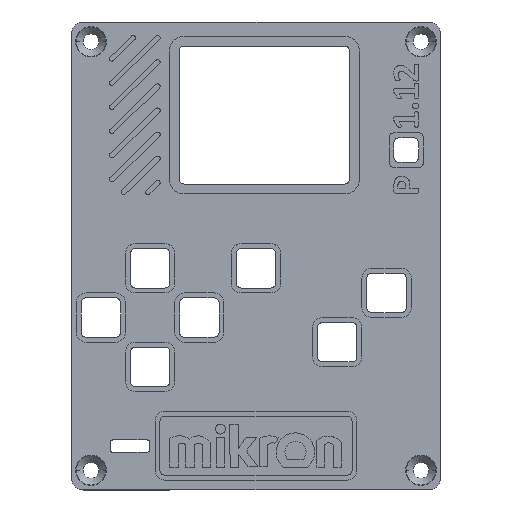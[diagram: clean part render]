
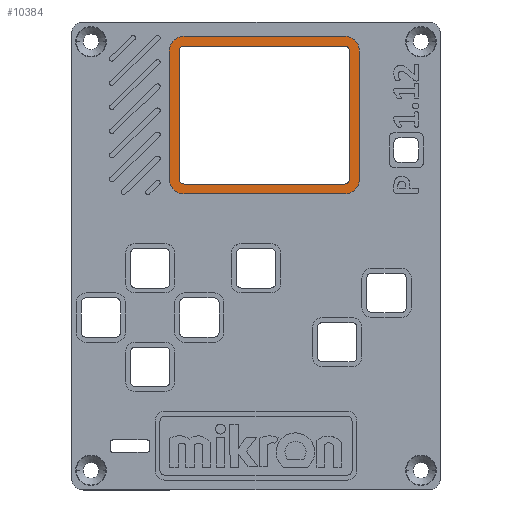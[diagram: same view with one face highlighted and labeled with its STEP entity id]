
A CAD part, top view. The second image highlights one B-rep face of the part: STEP entity #10384.
In plain terms, the highlighted planar face has unit normal (0, 0, 1).
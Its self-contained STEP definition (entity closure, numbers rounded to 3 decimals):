
#100 = LINE ( 'NONE', #8135, #12964 ) ;
#292 = VECTOR ( 'NONE', #822, 1000. ) ;
#358 = DIRECTION ( 'NONE',  ( 0., 0., -1. ) ) ;
#371 = ORIENTED_EDGE ( 'NONE', *, *, #14376, .T. ) ;
#407 = CIRCLE ( 'NONE', #3938, 1. ) ;
#627 = CARTESIAN_POINT ( 'NONE',  ( -15.6, 15.6, 1.5 ) ) ;
#755 = EDGE_CURVE ( 'NONE', #14327, #10355, #15179, .T. ) ;
#822 = DIRECTION ( 'NONE',  ( 0., -1., 0. ) ) ;
#841 = AXIS2_PLACEMENT_3D ( 'NONE', #2460, #14065, #5099 ) ;
#977 = ORIENTED_EDGE ( 'NONE', *, *, #14181, .T. ) ;
#1020 = VERTEX_POINT ( 'NONE', #5607 ) ;
#1138 = CARTESIAN_POINT ( 'NONE',  ( 18., 12.6, 1.5 ) ) ;
#1309 = CARTESIAN_POINT ( 'NONE',  ( 21., 41.6, 1.5 ) ) ;
#1426 = ORIENTED_EDGE ( 'NONE', *, *, #10832, .T. ) ;
#1540 = AXIS2_PLACEMENT_3D ( 'NONE', #12051, #358, #13670 ) ;
#1553 = VERTEX_POINT ( 'NONE', #14287 ) ;
#1686 = VERTEX_POINT ( 'NONE', #2068 ) ;
#1688 = DIRECTION ( 'NONE',  ( 1., 0., 0. ) ) ;
#1895 = AXIS2_PLACEMENT_3D ( 'NONE', #3225, #4256, #12348 ) ;
#1927 = VERTEX_POINT ( 'NONE', #5471 ) ;
#2050 = VECTOR ( 'NONE', #1688, 1000. ) ;
#2068 = CARTESIAN_POINT ( 'NONE',  ( 21., 15.6, 1.5 ) ) ;
#2105 = DIRECTION ( 'NONE',  ( 0., 1., 0. ) ) ;
#2225 = VERTEX_POINT ( 'NONE', #13224 ) ;
#2239 = CARTESIAN_POINT ( 'NONE',  ( -14.6, 41.6, 1.5 ) ) ;
#2249 = LINE ( 'NONE', #5143, #14023 ) ;
#2460 = CARTESIAN_POINT ( 'NONE',  ( -14.6, 41.6, 1.5 ) ) ;
#2495 = DIRECTION ( 'NONE',  ( 1., 0., 0. ) ) ;
#2569 = CARTESIAN_POINT ( 'NONE',  ( 19., 42.6, 1.5 ) ) ;
#2610 = VERTEX_POINT ( 'NONE', #2626 ) ;
#2626 = CARTESIAN_POINT ( 'NONE',  ( -15.6, 41.6, 1.5 ) ) ;
#3001 = CIRCLE ( 'NONE', #1895, 1. ) ;
#3225 = CARTESIAN_POINT ( 'NONE',  ( -14.6, 15.6, 1.5 ) ) ;
#3369 = CIRCLE ( 'NONE', #11818, 3. ) ;
#3373 = CIRCLE ( 'NONE', #15092, 3. ) ;
#3557 = CARTESIAN_POINT ( 'NONE',  ( 19., 15.6, 1.5 ) ) ;
#3783 = CIRCLE ( 'NONE', #8157, 3. ) ;
#3803 = DIRECTION ( 'NONE',  ( 0., 0., -1. ) ) ;
#3938 = AXIS2_PLACEMENT_3D ( 'NONE', #8835, #3803, #8921 ) ;
#4237 = VECTOR ( 'NONE', #2105, 1000. ) ;
#4256 = DIRECTION ( 'NONE',  ( 0., 0., -1. ) ) ;
#4539 = EDGE_CURVE ( 'NONE', #14844, #2610, #100, .T. ) ;
#4683 = ORIENTED_EDGE ( 'NONE', *, *, #11913, .T. ) ;
#4779 = CARTESIAN_POINT ( 'NONE',  ( -14.6, 14.6, 1.5 ) ) ;
#4893 = FACE_OUTER_BOUND ( 'NONE', #15937, .T. ) ;
#4916 = DIRECTION ( 'NONE',  ( -1., 0., 0. ) ) ;
#5046 = EDGE_CURVE ( 'NONE', #1553, #9904, #407, .T. ) ;
#5061 = DIRECTION ( 'NONE',  ( -1., 0., 0. ) ) ;
#5099 = DIRECTION ( 'NONE',  ( 1., 0., 0. ) ) ;
#5122 = LINE ( 'NONE', #2569, #2050 ) ;
#5143 = CARTESIAN_POINT ( 'NONE',  ( 19., 14.6, 1.5 ) ) ;
#5235 = CARTESIAN_POINT ( 'NONE',  ( -14.6, 15.6, 1.5 ) ) ;
#5236 = ORIENTED_EDGE ( 'NONE', *, *, #14652, .T. ) ;
#5471 = CARTESIAN_POINT ( 'NONE',  ( -14.6, 44.6, 1.5 ) ) ;
#5607 = CARTESIAN_POINT ( 'NONE',  ( 18., 44.6, 1.5 ) ) ;
#6156 = VERTEX_POINT ( 'NONE', #7414 ) ;
#6619 = EDGE_CURVE ( 'NONE', #1020, #1927, #8679, .T. ) ;
#6865 = ORIENTED_EDGE ( 'NONE', *, *, #8633, .T. ) ;
#7070 = VERTEX_POINT ( 'NONE', #1309 ) ;
#7171 = AXIS2_PLACEMENT_3D ( 'NONE', #10108, #11549, #8910 ) ;
#7372 = VECTOR ( 'NONE', #4916, 1000. ) ;
#7414 = CARTESIAN_POINT ( 'NONE',  ( -14.6, 42.6, 1.5 ) ) ;
#7472 = CARTESIAN_POINT ( 'NONE',  ( 18., 14.6, 1.5 ) ) ;
#7653 = EDGE_CURVE ( 'NONE', #12673, #14844, #3001, .T. ) ;
#7747 = DIRECTION ( 'NONE',  ( 0., -1., 0. ) ) ;
#8135 = CARTESIAN_POINT ( 'NONE',  ( -15.6, 42.6, 1.5 ) ) ;
#8157 = AXIS2_PLACEMENT_3D ( 'NONE', #2239, #12642, #10432 ) ;
#8503 = LINE ( 'NONE', #13703, #292 ) ;
#8534 = EDGE_CURVE ( 'NONE', #6156, #1553, #5122, .T. ) ;
#8633 = EDGE_CURVE ( 'NONE', #1686, #7070, #12594, .T. ) ;
#8679 = LINE ( 'NONE', #11402, #7372 ) ;
#8835 = CARTESIAN_POINT ( 'NONE',  ( 18., 41.6, 1.5 ) ) ;
#8910 = DIRECTION ( 'NONE',  ( 1., 0., 0. ) ) ;
#8921 = DIRECTION ( 'NONE',  ( 1., 0., 0. ) ) ;
#8978 = CARTESIAN_POINT ( 'NONE',  ( 18., 15.6, 1.5 ) ) ;
#9241 = VERTEX_POINT ( 'NONE', #1138 ) ;
#9273 = EDGE_CURVE ( 'NONE', #15555, #12673, #2249, .T. ) ;
#9307 = CIRCLE ( 'NONE', #11398, 3. ) ;
#9620 = CARTESIAN_POINT ( 'NONE',  ( -17.6, 41.6, 1.5 ) ) ;
#9893 = ORIENTED_EDGE ( 'NONE', *, *, #5046, .T. ) ;
#9904 = VERTEX_POINT ( 'NONE', #12613 ) ;
#10057 = ORIENTED_EDGE ( 'NONE', *, *, #8534, .T. ) ;
#10108 = CARTESIAN_POINT ( 'NONE',  ( 18., 41.6, 1.5 ) ) ;
#10355 = VERTEX_POINT ( 'NONE', #14375 ) ;
#10366 = FACE_BOUND ( 'NONE', #15905, .T. ) ;
#10384 = ADVANCED_FACE ( 'NONE', ( #4893, #10366 ), #11729, .T. ) ;
#10432 = DIRECTION ( 'NONE',  ( 1., 0., 0. ) ) ;
#10535 = DIRECTION ( 'NONE',  ( 0., 0., 1. ) ) ;
#10832 = EDGE_CURVE ( 'NONE', #9241, #1686, #3373, .T. ) ;
#11101 = ORIENTED_EDGE ( 'NONE', *, *, #6619, .T. ) ;
#11146 = VECTOR ( 'NONE', #12725, 1000. ) ;
#11386 = ORIENTED_EDGE ( 'NONE', *, *, #7653, .T. ) ;
#11398 = AXIS2_PLACEMENT_3D ( 'NONE', #12154, #14553, #15992 ) ;
#11402 = CARTESIAN_POINT ( 'NONE',  ( 18., 44.6, 1.5 ) ) ;
#11456 = LINE ( 'NONE', #16313, #11146 ) ;
#11461 = CIRCLE ( 'NONE', #841, 1. ) ;
#11505 = CARTESIAN_POINT ( 'NONE',  ( -17.6, 41.6, 1.5 ) ) ;
#11549 = DIRECTION ( 'NONE',  ( 0., 0., 1. ) ) ;
#11729 = PLANE ( 'NONE',  #7171 ) ;
#11818 = AXIS2_PLACEMENT_3D ( 'NONE', #5235, #10535, #13093 ) ;
#11840 = VECTOR ( 'NONE', #7747, 1000. ) ;
#11848 = ORIENTED_EDGE ( 'NONE', *, *, #755, .T. ) ;
#11913 = EDGE_CURVE ( 'NONE', #10355, #2225, #3369, .T. ) ;
#12051 = CARTESIAN_POINT ( 'NONE',  ( 18., 15.6, 1.5 ) ) ;
#12154 = CARTESIAN_POINT ( 'NONE',  ( 18., 41.6, 1.5 ) ) ;
#12204 = ORIENTED_EDGE ( 'NONE', *, *, #15170, .T. ) ;
#12209 = ORIENTED_EDGE ( 'NONE', *, *, #12324, .T. ) ;
#12289 = EDGE_CURVE ( 'NONE', #2225, #9241, #11456, .T. ) ;
#12324 = EDGE_CURVE ( 'NONE', #1927, #14327, #3783, .T. ) ;
#12348 = DIRECTION ( 'NONE',  ( 1., 0., 0. ) ) ;
#12594 = LINE ( 'NONE', #16429, #4237 ) ;
#12613 = CARTESIAN_POINT ( 'NONE',  ( 19., 41.6, 1.5 ) ) ;
#12642 = DIRECTION ( 'NONE',  ( 0., 0., 1. ) ) ;
#12673 = VERTEX_POINT ( 'NONE', #4779 ) ;
#12725 = DIRECTION ( 'NONE',  ( 1., 0., 0. ) ) ;
#12964 = VECTOR ( 'NONE', #15722, 1000. ) ;
#13093 = DIRECTION ( 'NONE',  ( 1., 0., 0. ) ) ;
#13224 = CARTESIAN_POINT ( 'NONE',  ( -14.6, 12.6, 1.5 ) ) ;
#13670 = DIRECTION ( 'NONE',  ( 1., 0., 0. ) ) ;
#13703 = CARTESIAN_POINT ( 'NONE',  ( 19., 42.6, 1.5 ) ) ;
#14023 = VECTOR ( 'NONE', #5061, 1000. ) ;
#14065 = DIRECTION ( 'NONE',  ( 0., 0., -1. ) ) ;
#14181 = EDGE_CURVE ( 'NONE', #2610, #6156, #11461, .T. ) ;
#14190 = DIRECTION ( 'NONE',  ( 0., 0., 1. ) ) ;
#14287 = CARTESIAN_POINT ( 'NONE',  ( 18., 42.6, 1.5 ) ) ;
#14327 = VERTEX_POINT ( 'NONE', #9620 ) ;
#14375 = CARTESIAN_POINT ( 'NONE',  ( -17.6, 15.6, 1.5 ) ) ;
#14376 = EDGE_CURVE ( 'NONE', #9904, #15550, #8503, .T. ) ;
#14474 = ORIENTED_EDGE ( 'NONE', *, *, #12289, .T. ) ;
#14553 = DIRECTION ( 'NONE',  ( 0., 0., 1. ) ) ;
#14652 = EDGE_CURVE ( 'NONE', #7070, #1020, #9307, .T. ) ;
#14844 = VERTEX_POINT ( 'NONE', #627 ) ;
#14858 = ORIENTED_EDGE ( 'NONE', *, *, #4539, .T. ) ;
#15092 = AXIS2_PLACEMENT_3D ( 'NONE', #8978, #14190, #2495 ) ;
#15170 = EDGE_CURVE ( 'NONE', #15550, #15555, #15724, .T. ) ;
#15179 = LINE ( 'NONE', #11505, #11840 ) ;
#15463 = ORIENTED_EDGE ( 'NONE', *, *, #9273, .T. ) ;
#15550 = VERTEX_POINT ( 'NONE', #3557 ) ;
#15555 = VERTEX_POINT ( 'NONE', #7472 ) ;
#15722 = DIRECTION ( 'NONE',  ( 0., 1., 0. ) ) ;
#15724 = CIRCLE ( 'NONE', #1540, 1. ) ;
#15905 = EDGE_LOOP ( 'NONE', ( #12204, #15463, #11386, #14858, #977, #10057, #9893, #371 ) ) ;
#15937 = EDGE_LOOP ( 'NONE', ( #5236, #11101, #12209, #11848, #4683, #14474, #1426, #6865 ) ) ;
#15992 = DIRECTION ( 'NONE',  ( 1., 0., 0. ) ) ;
#16313 = CARTESIAN_POINT ( 'NONE',  ( -14.6, 12.6, 1.5 ) ) ;
#16429 = CARTESIAN_POINT ( 'NONE',  ( 21., 15.6, 1.5 ) ) ;
